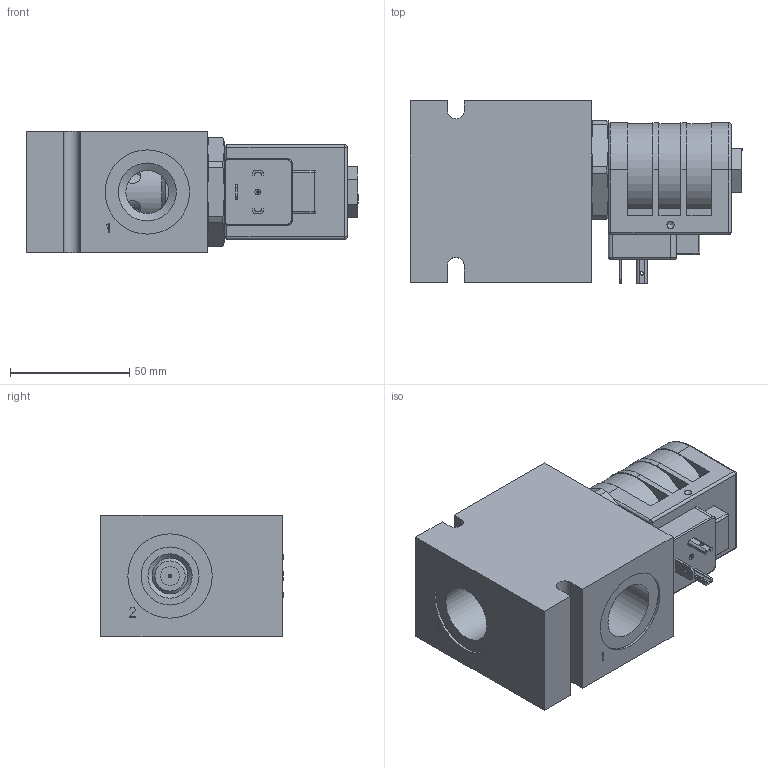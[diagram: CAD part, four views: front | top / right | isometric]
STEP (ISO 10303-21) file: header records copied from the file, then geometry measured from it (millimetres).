
FILE_DESCRIPTION( ( 'Unknown' ), '1' );
FILE_NAME( 'G:/Graphic Design/Graphic Design 2/Data Sheets/SOLENOID OPERATED VALVES/4_STEP/2W2P Normally Closed/HJ-S2C-D2.stp', 'Unknown', ( 'Unknown' ), ( 'Unknown' ), 'PSStep 15.0.49', 'Unknown', ' ' );
FILE_SCHEMA( ( 'AUTOMOTIVE_DESIGN { 1 0 10303 214 1 1 1 1 }' ) );
Length unit declared in the file: millimetre
Products named in the file (17): D-DHC12_24; DHC-Body; DHC-Disc; DHC-Disc-oa0; PT-EL-HC-TerminalConnectors; D-SJ-S2B-00-delta; SJS2B00-3D Full1; SJS2B00-3D Full2; SJS2B00-3D Full3; SJS2B00-3D Full4; Delta_1_2_nut1 - Copy; Assem1; B-DSJD2
Assembly tree (16 placements, depth 3):
  Assem1
    B-DSJD2
    D-DHC12_24
      DHC-Body
      DHC-Disc
      DHC-Disc-oa0
      PT-EL-HC-TerminalConnectors
      PT-EL-HC-TerminalConnectors
      PT-EL-HC-TerminalConnectors
      PT-EL-HC-TerminalConnectors
    D-SJ-S2B-00-delta
      SJS2B00-3D Full1
      SJS2B00-3D Full2
      SJS2B00-3D Full3
      SJS2B00-3D Full4
      SJS2B00-3D Full4
      Delta_1_2_nut1 - Copy
Bounding box: 139.04 x 76.4 x 50.8 mm (x, y, z)
Volume: 308079.4 mm3; surface area: 72304 mm2
Topology: 12 solids, 132 shells, 651 faces, 1865 edges, 1316 vertices
Faces by surface type: plane 324, extrusion 118, cylinder 107, cone 80, torus 16, sphere 6
Full cylindrical faces by diameter (mm): 0.2 x2, 0.813 x1, 1 x1, 1.5 x3, 2.5 x1, 3 x2, 6.756 x6, 7.899 x2, 8.382 x1, 10.998 x1, 11.049 x1, 12.586 x1, 12.675 x1, 12.7 x2, 13 x1, 14.986 x1, 16.002 x1, 18 x1, 18.796 x1, 19.094 x1, 24.054 x1, 24.105 x1, 24.3 x4, 25.4 x2, 26.924 x1, 28.423 x1, 28.524 x2, 28.651 x1, 29.85 x2, 30.15 x1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
Entity records: 28611 total; most frequent: CARTESIAN_POINT 7558, ORIENTED_EDGE 3012, DIRECTION 2839, EDGE_CURVE 1713, VERTEX_POINT 1297, AXIS2_PLACEMENT_3D 954, VECTOR 931, EDGE_LOOP 852
